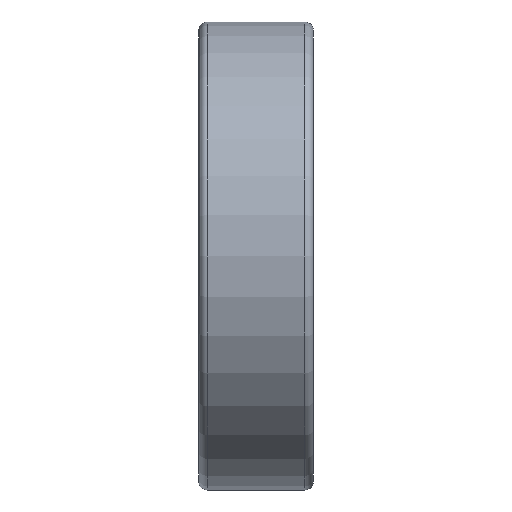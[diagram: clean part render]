
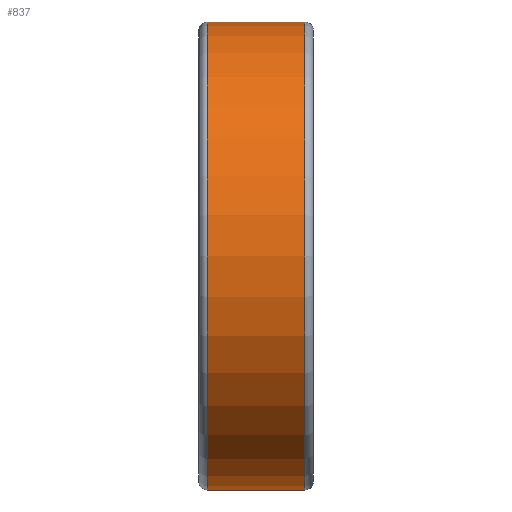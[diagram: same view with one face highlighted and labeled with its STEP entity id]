
A CAD part, front view. The second image highlights one B-rep face of the part: STEP entity #837.
In plain terms, the highlighted cylindrical face has radius 55 mm (diameter 110 mm), a full revolution.
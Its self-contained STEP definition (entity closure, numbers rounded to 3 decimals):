
#144=CYLINDRICAL_SURFACE($,#975,55.);
#159=FACE_BOUND($,#272,.T.);
#210=FACE_OUTER_BOUND($,#271,.T.);
#271=EDGE_LOOP($,(#773));
#272=EDGE_LOOP($,(#774));
#358=CIRCLE($,#973,55.);
#360=CIRCLE($,#976,55.);
#440=VERTEX_POINT($,#2198);
#442=VERTEX_POINT($,#2203);
#553=EDGE_CURVE($,#440,#440,#358,.T.);
#555=EDGE_CURVE($,#442,#442,#360,.T.);
#773=ORIENTED_EDGE($,*,*,#555,.F.);
#774=ORIENTED_EDGE($,*,*,#553,.T.);
#837=ADVANCED_FACE($,(#210,#159),#144,.T.);
#973=AXIS2_PLACEMENT_3D($,#2199,#1243,#1244);
#975=AXIS2_PLACEMENT_3D($,#2202,#1247,#1248);
#976=AXIS2_PLACEMENT_3D($,#2204,#1249,#1250);
#1243=DIRECTION('center_axis',(1.,0.,0.));
#1244=DIRECTION('ref_axis',(0.,0.,-1.));
#1247=DIRECTION('center_axis',(1.,0.,0.));
#1248=DIRECTION('ref_axis',(0.,1.,0.));
#1249=DIRECTION('center_axis',(1.,0.,0.));
#1250=DIRECTION('ref_axis',(0.,0.,-1.));
#2198=CARTESIAN_POINT('',(-11.5,55.,0.));
#2199=CARTESIAN_POINT('Origin',(-11.5,0.,0.));
#2202=CARTESIAN_POINT('Origin',(0.,0.,0.));
#2203=CARTESIAN_POINT('',(11.5,55.,0.));
#2204=CARTESIAN_POINT('Origin',(11.5,0.,0.));
